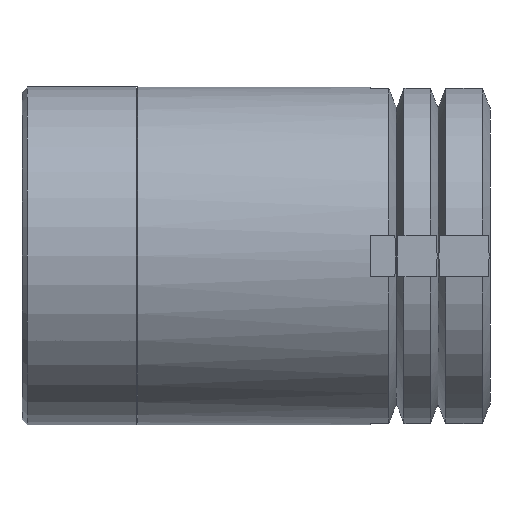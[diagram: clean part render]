
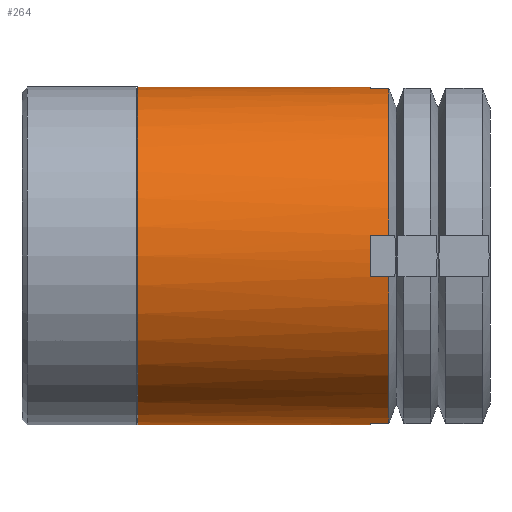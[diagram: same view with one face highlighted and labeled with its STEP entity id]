
A CAD part, front view. The second image highlights one B-rep face of the part: STEP entity #264.
In plain terms, the highlighted cylindrical face has radius 32.5 mm (diameter 65 mm), a full revolution.
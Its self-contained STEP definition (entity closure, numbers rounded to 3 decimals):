
#264 = ADVANCED_FACE( '', ( #402, #403 ), #404, .T. );
#402 = FACE_OUTER_BOUND( '', #640, .T. );
#403 = FACE_OUTER_BOUND( '', #641, .T. );
#404 = CYLINDRICAL_SURFACE( '', #642, 32.5 );
#640 = EDGE_LOOP( '', ( #922 ) );
#641 = EDGE_LOOP( '', ( #923, #924, #925, #926, #927, #928, #929, #930, #931, #932, #933, #934, #935, #936, #937, #938 ) );
#642 = AXIS2_PLACEMENT_3D( '', #939, #940, #941 );
#922 = ORIENTED_EDGE( '', *, *, #1500, .F. );
#923 = ORIENTED_EDGE( '', *, *, #1501, .F. );
#924 = ORIENTED_EDGE( '', *, *, #1502, .T. );
#925 = ORIENTED_EDGE( '', *, *, #1503, .T. );
#926 = ORIENTED_EDGE( '', *, *, #1504, .F. );
#927 = ORIENTED_EDGE( '', *, *, #1505, .F. );
#928 = ORIENTED_EDGE( '', *, *, #1506, .T. );
#929 = ORIENTED_EDGE( '', *, *, #1507, .T. );
#930 = ORIENTED_EDGE( '', *, *, #1508, .F. );
#931 = ORIENTED_EDGE( '', *, *, #1509, .F. );
#932 = ORIENTED_EDGE( '', *, *, #1486, .T. );
#933 = ORIENTED_EDGE( '', *, *, #1510, .T. );
#934 = ORIENTED_EDGE( '', *, *, #1511, .F. );
#935 = ORIENTED_EDGE( '', *, *, #1512, .F. );
#936 = ORIENTED_EDGE( '', *, *, #1513, .T. );
#937 = ORIENTED_EDGE( '', *, *, #1514, .T. );
#938 = ORIENTED_EDGE( '', *, *, #1515, .F. );
#939 = CARTESIAN_POINT( '', ( 0., 9.939, 0. ) );
#940 = DIRECTION( '', ( 0., 1., 0. ) );
#941 = DIRECTION( '', ( 0., 0., -1. ) );
#1486 = EDGE_CURVE( '', #1685, #1683, #1686, .T. );
#1500 = EDGE_CURVE( '', #1712, #1712, #1713, .T. );
#1501 = EDGE_CURVE( '', #1714, #1715, #1716, .T. );
#1502 = EDGE_CURVE( '', #1714, #1717, #1718, .T. );
#1503 = EDGE_CURVE( '', #1717, #1719, #1720, .T. );
#1504 = EDGE_CURVE( '', #1721, #1719, #1722, .T. );
#1505 = EDGE_CURVE( '', #1723, #1721, #1724, .T. );
#1506 = EDGE_CURVE( '', #1723, #1725, #1726, .T. );
#1507 = EDGE_CURVE( '', #1725, #1727, #1728, .T. );
#1508 = EDGE_CURVE( '', #1729, #1727, #1730, .T. );
#1509 = EDGE_CURVE( '', #1685, #1729, #1731, .T. );
#1510 = EDGE_CURVE( '', #1683, #1732, #1733, .T. );
#1511 = EDGE_CURVE( '', #1734, #1732, #1735, .T. );
#1512 = EDGE_CURVE( '', #1736, #1734, #1737, .T. );
#1513 = EDGE_CURVE( '', #1736, #1738, #1739, .T. );
#1514 = EDGE_CURVE( '', #1738, #1740, #1741, .T. );
#1515 = EDGE_CURVE( '', #1715, #1740, #1742, .T. );
#1683 = VERTEX_POINT( '', #2011 );
#1685 = VERTEX_POINT( '', #2019 );
#1686 = LINE( '', #2020, #2021 );
#1712 = VERTEX_POINT( '', #2049 );
#1713 = CIRCLE( '', #2050, 32.5 );
#1714 = VERTEX_POINT( '', #2051 );
#1715 = VERTEX_POINT( '', #2052 );
#1716 = CIRCLE( '', #2053, 32.5 );
#1717 = VERTEX_POINT( '', #2054 );
#1718 = LINE( '', #2055, #2056 );
#1719 = VERTEX_POINT( '', #2057 );
#1720 = CIRCLE( '', #2058, 32.5 );
#1721 = VERTEX_POINT( '', #2059 );
#1722 = LINE( '', #2060, #2061 );
#1723 = VERTEX_POINT( '', #2062 );
#1724 = CIRCLE( '', #2063, 32.5 );
#1725 = VERTEX_POINT( '', #2064 );
#1726 = LINE( '', #2065, #2066 );
#1727 = VERTEX_POINT( '', #2067 );
#1728 = CIRCLE( '', #2068, 32.5 );
#1729 = VERTEX_POINT( '', #2069 );
#1730 = LINE( '', #2070, #2071 );
#1731 = CIRCLE( '', #2072, 32.5 );
#1732 = VERTEX_POINT( '', #2073 );
#1733 = CIRCLE( '', #2074, 32.5 );
#1734 = VERTEX_POINT( '', #2075 );
#1735 = LINE( '', #2076, #2077 );
#1736 = VERTEX_POINT( '', #2078 );
#1737 = CIRCLE( '', #2079, 32.5 );
#1738 = VERTEX_POINT( '', #2080 );
#1739 = LINE( '', #2081, #2082 );
#1740 = VERTEX_POINT( '', #2083 );
#1741 = CIRCLE( '', #2084, 32.5 );
#1742 = LINE( '', #2085, #2086 );
#2011 = CARTESIAN_POINT( '', ( -32.253, 70.54, -4. ) );
#2019 = CARTESIAN_POINT( '', ( -32.253, 67., -4. ) );
#2020 = CARTESIAN_POINT( '', ( -32.253, 67., -4. ) );
#2021 = VECTOR( '', #2747, 1000. );
#2049 = CARTESIAN_POINT( '', ( 0., 22.213, -32.5 ) );
#2050 = AXIS2_PLACEMENT_3D( '', #2783, #2784, #2785 );
#2051 = CARTESIAN_POINT( '', ( 32.253, 67., 4. ) );
#2052 = CARTESIAN_POINT( '', ( 32.253, 67., -4. ) );
#2053 = AXIS2_PLACEMENT_3D( '', #2786, #2787, #2788 );
#2054 = CARTESIAN_POINT( '', ( 32.253, 70.54, 4. ) );
#2055 = CARTESIAN_POINT( '', ( 32.253, 67., 4. ) );
#2056 = VECTOR( '', #2789, 1000. );
#2057 = CARTESIAN_POINT( '', ( 4., 70.54, 32.253 ) );
#2058 = AXIS2_PLACEMENT_3D( '', #2790, #2791, #2792 );
#2059 = CARTESIAN_POINT( '', ( 4., 67., 32.253 ) );
#2060 = CARTESIAN_POINT( '', ( 4., 67., 32.253 ) );
#2061 = VECTOR( '', #2793, 1000. );
#2062 = CARTESIAN_POINT( '', ( -4., 67., 32.253 ) );
#2063 = AXIS2_PLACEMENT_3D( '', #2794, #2795, #2796 );
#2064 = CARTESIAN_POINT( '', ( -4., 70.54, 32.253 ) );
#2065 = CARTESIAN_POINT( '', ( -4., 67., 32.253 ) );
#2066 = VECTOR( '', #2797, 1000. );
#2067 = CARTESIAN_POINT( '', ( -32.253, 70.54, 4. ) );
#2068 = AXIS2_PLACEMENT_3D( '', #2798, #2799, #2800 );
#2069 = CARTESIAN_POINT( '', ( -32.253, 67., 4. ) );
#2070 = CARTESIAN_POINT( '', ( -32.253, 67., 4. ) );
#2071 = VECTOR( '', #2801, 1000. );
#2072 = AXIS2_PLACEMENT_3D( '', #2802, #2803, #2804 );
#2073 = CARTESIAN_POINT( '', ( -4., 70.54, -32.253 ) );
#2074 = AXIS2_PLACEMENT_3D( '', #2805, #2806, #2807 );
#2075 = CARTESIAN_POINT( '', ( -4., 67., -32.253 ) );
#2076 = CARTESIAN_POINT( '', ( -4., 67., -32.253 ) );
#2077 = VECTOR( '', #2808, 1000. );
#2078 = CARTESIAN_POINT( '', ( 4., 67., -32.253 ) );
#2079 = AXIS2_PLACEMENT_3D( '', #2809, #2810, #2811 );
#2080 = CARTESIAN_POINT( '', ( 4., 70.54, -32.253 ) );
#2081 = CARTESIAN_POINT( '', ( 4., 67., -32.253 ) );
#2082 = VECTOR( '', #2812, 1000. );
#2083 = CARTESIAN_POINT( '', ( 32.253, 70.54, -4. ) );
#2084 = AXIS2_PLACEMENT_3D( '', #2813, #2814, #2815 );
#2085 = CARTESIAN_POINT( '', ( 32.253, 67., -4. ) );
#2086 = VECTOR( '', #2816, 1000. );
#2747 = DIRECTION( '', ( 0., 1., 0. ) );
#2783 = CARTESIAN_POINT( '', ( 0., 22.213, 0. ) );
#2784 = DIRECTION( '', ( 0., -1., 0. ) );
#2785 = DIRECTION( '', ( 0., 0., -1. ) );
#2786 = CARTESIAN_POINT( '', ( 0., 67., 0. ) );
#2787 = DIRECTION( '', ( 0., 1., 0. ) );
#2788 = DIRECTION( '', ( 0., 0., 1. ) );
#2789 = DIRECTION( '', ( 0., 1., 0. ) );
#2790 = CARTESIAN_POINT( '', ( 0., 70.54, 0. ) );
#2791 = DIRECTION( '', ( 0., -1., 0. ) );
#2792 = DIRECTION( '', ( 0., 0., -1. ) );
#2793 = DIRECTION( '', ( 0., 1., 0. ) );
#2794 = CARTESIAN_POINT( '', ( 0., 67., 0. ) );
#2795 = DIRECTION( '', ( 0., 1., 0. ) );
#2796 = DIRECTION( '', ( 0., 0., 1. ) );
#2797 = DIRECTION( '', ( 0., 1., 0. ) );
#2798 = CARTESIAN_POINT( '', ( 0., 70.54, 0. ) );
#2799 = DIRECTION( '', ( 0., -1., 0. ) );
#2800 = DIRECTION( '', ( 0., 0., -1. ) );
#2801 = DIRECTION( '', ( 0., 1., 0. ) );
#2802 = CARTESIAN_POINT( '', ( 0., 67., 0. ) );
#2803 = DIRECTION( '', ( 0., 1., 0. ) );
#2804 = DIRECTION( '', ( 0., 0., 1. ) );
#2805 = CARTESIAN_POINT( '', ( 0., 70.54, 0. ) );
#2806 = DIRECTION( '', ( 0., -1., 0. ) );
#2807 = DIRECTION( '', ( 0., 0., -1. ) );
#2808 = DIRECTION( '', ( 0., 1., 0. ) );
#2809 = CARTESIAN_POINT( '', ( 0., 67., 0. ) );
#2810 = DIRECTION( '', ( 0., 1., 0. ) );
#2811 = DIRECTION( '', ( 0., 0., 1. ) );
#2812 = DIRECTION( '', ( 0., 1., 0. ) );
#2813 = CARTESIAN_POINT( '', ( 0., 70.54, 0. ) );
#2814 = DIRECTION( '', ( 0., -1., 0. ) );
#2815 = DIRECTION( '', ( 0., 0., -1. ) );
#2816 = DIRECTION( '', ( 0., 1., 0. ) );
